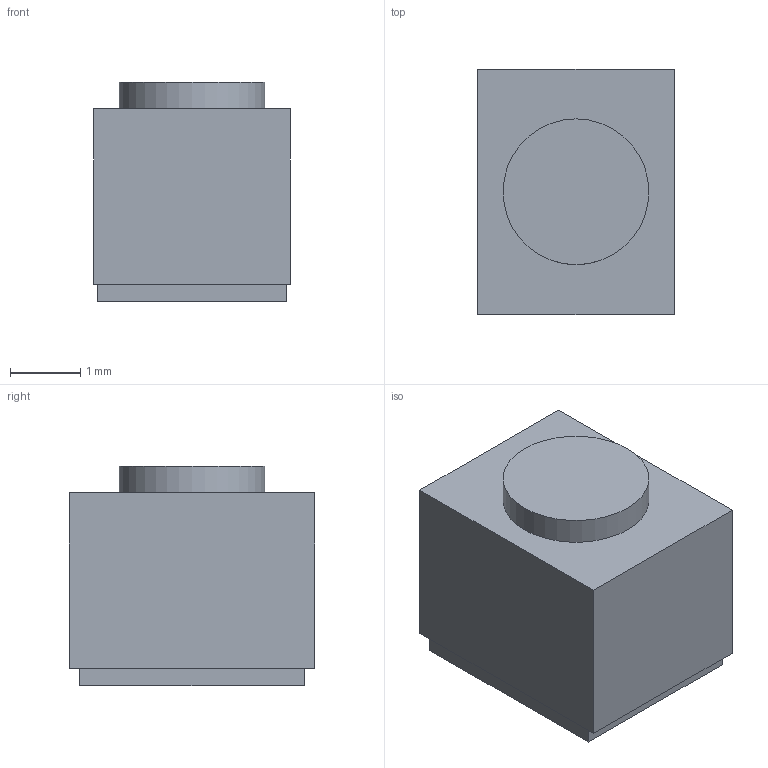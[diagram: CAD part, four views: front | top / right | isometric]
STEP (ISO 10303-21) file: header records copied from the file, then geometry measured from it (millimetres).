
FILE_DESCRIPTION(('Open CASCADE Model'),'2;1');
FILE_NAME('red-led-package.step','2026-11-14T14:29:29',('Author'),( 'Open CASCADE'),'Open CASCADE STEP processor 8.0','Open CASCADE 8.0' ,'Unknown');
FILE_SCHEMA(('AP242_MANAGED_MODEL_BASED_3D_ENGINEERING_MIM_LF {1 0 10303 442 1 1 4 }' ));
Length unit declared in the file: millimetre
Products named in the file (1): Red LED Package
Bounding box: 2.8 x 3.5 x 3.13 mm (x, y, z)
Volume: 28 mm3; surface area: 80.6 mm2
Topology: 3 solids, 3 shells, 15 faces, 27 edges, 18 vertices
Faces by surface type: plane 14, cylinder 1
Full cylindrical faces by diameter (mm): 2.08 x1
Entity records: 745 total; most frequent: CARTESIAN_POINT 115, DIRECTION 115, LINE 77, VECTOR 77, ORIENTED_EDGE 54, PCURVE 54, DEFINITIONAL_REPRESENTATION 54, EDGE_CURVE 27
